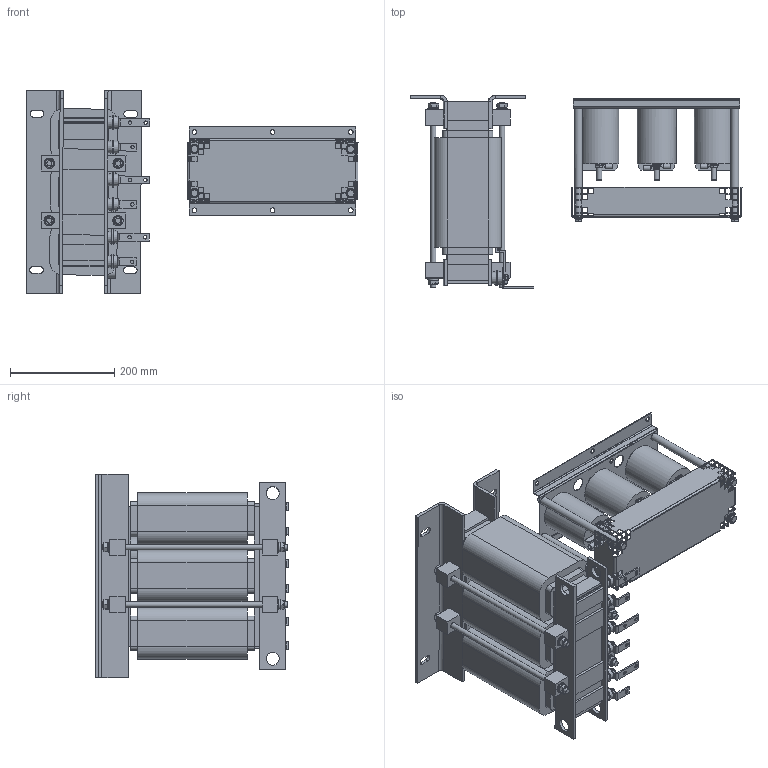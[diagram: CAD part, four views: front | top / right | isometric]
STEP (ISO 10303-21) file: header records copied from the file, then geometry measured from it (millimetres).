
FILE_DESCRIPTION(/* description */ ('raw material description'),/* implementation_level */ '2;1');
FILE_NAME(/* name */ 'C:\Users\Oliver.Volic\Desktop\FN5040HV-75-99.stp',/* time_stamp */ '2019-01-14T13:54:31+01:00',/* author */ ('Oliver.Volic'),/* organization */ ('Schaffner EMV AG'),/* preprocessor_version */ 'ST-DEVELOPER v16.5',/* originating_system */ 'Autodesk Inventor 2017',/* authorisation */ '');
FILE_SCHEMA (('AUTOMOTIVE_DESIGN { 1 0 10303 214 3 1 1 }'));
Products named in the file (1): FN5040HV-75-99
Bounding box: 637.31 x 370 x 390.8 mm (x, y, z)
Volume: 13572414.9 mm3; surface area: 1248955 mm2
Topology: 2 solids, 32 shells, 2067 faces, 5460 edges, 3543 vertices
Faces by surface type: plane 1442, cylinder 422, cone 147, torus 28, bspline 28
Full cylindrical faces by diameter (mm): 4.917 x9, 6 x14, 6.3 x6, 6.4 x7, 6.6 x9, 6.647 x8, 7.1 x7, 8 x12, 8.2 x1, 8.5 x1, 9 x13, 9.5 x7, 10 x23, 10.5 x8, 10.7 x8, 11 x14, 12 x11, 12.611 x8, 13 x9, 15 x4, 18 x4, 18.2 x8, 20 x9, 25 x8, 75 x3
Entity records: 64280 total; most frequent: CARTESIAN_POINT 12775, ORIENTED_EDGE 10026, DIRECTION 9849, EDGE_CURVE 5013, VERTEX_POINT 3406, LINE 3377, VECTOR 3377, AXIS2_PLACEMENT_3D 3236
